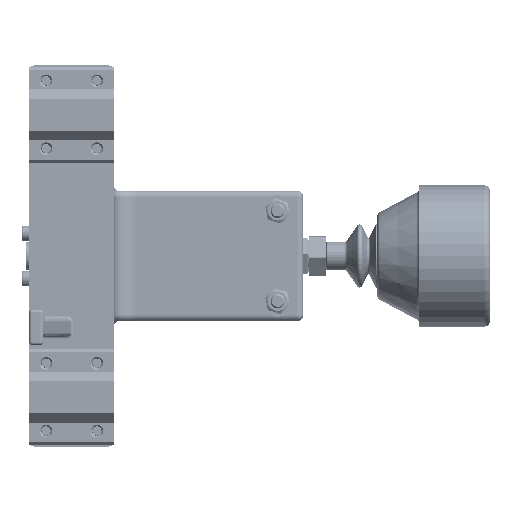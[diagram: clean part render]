
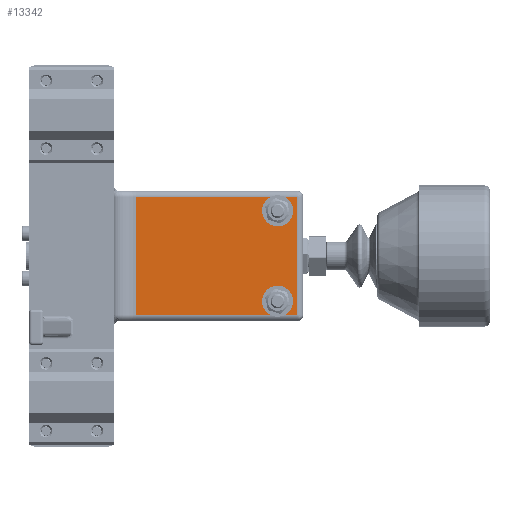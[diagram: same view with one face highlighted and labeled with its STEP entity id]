
A CAD part, left-side view. The second image highlights one B-rep face of the part: STEP entity #13342.
In plain terms, the highlighted planar face has unit normal (-1, 0, 0).
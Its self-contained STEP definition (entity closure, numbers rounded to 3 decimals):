
#478=FACE_BOUND('',#2637,.T.);
#479=FACE_BOUND('',#2638,.T.);
#640=PLANE('',#14743);
#1807=FACE_OUTER_BOUND('',#2636,.T.);
#2636=EDGE_LOOP('',(#11615,#11616,#11617,#11618));
#2637=EDGE_LOOP('',(#11619));
#2638=EDGE_LOOP('',(#11620));
#3365=CIRCLE('',#14671,2.75);
#3366=CIRCLE('',#14674,2.75);
#4055=LINE('',#66366,#4807);
#4056=LINE('',#66372,#4808);
#4058=LINE('',#66385,#4810);
#4096=LINE('',#66693,#4848);
#4807=VECTOR('',#17057,10.);
#4808=VECTOR('',#17064,10.);
#4810=VECTOR('',#17080,10.);
#4848=VECTOR('',#17292,8.);
#6051=VERTEX_POINT('',#66263);
#6077=VERTEX_POINT('',#66365);
#6079=VERTEX_POINT('',#66371);
#6082=VERTEX_POINT('',#66379);
#6135=VERTEX_POINT('',#66689);
#6136=VERTEX_POINT('',#66695);
#7859=EDGE_CURVE('',#6051,#6077,#4055,.T.);
#7862=EDGE_CURVE('',#6077,#6079,#4056,.T.);
#7869=EDGE_CURVE('',#6079,#6082,#4058,.T.);
#7968=EDGE_CURVE('',#6135,#6135,#3365,.T.);
#7969=EDGE_CURVE('',#6082,#6051,#4096,.T.);
#7971=EDGE_CURVE('',#6136,#6136,#3366,.T.);
#11615=ORIENTED_EDGE('',*,*,#7859,.F.);
#11616=ORIENTED_EDGE('',*,*,#7969,.F.);
#11617=ORIENTED_EDGE('',*,*,#7869,.F.);
#11618=ORIENTED_EDGE('',*,*,#7862,.F.);
#11619=ORIENTED_EDGE('',*,*,#7968,.T.);
#11620=ORIENTED_EDGE('',*,*,#7971,.T.);
#13342=ADVANCED_FACE('',(#1807,#478,#479),#640,.F.);
#14671=AXIS2_PLACEMENT_3D('',#66691,#17288,#17289);
#14674=AXIS2_PLACEMENT_3D('',#66697,#17296,#17297);
#14743=AXIS2_PLACEMENT_3D('',#66822,#17460,#17461);
#17057=DIRECTION('',(0.,-1.,0.));
#17064=DIRECTION('',(0.,0.,-1.));
#17080=DIRECTION('',(0.,1.,0.));
#17288=DIRECTION('center_axis',(1.,0.,0.));
#17289=DIRECTION('ref_axis',(0.,0.,-1.));
#17292=DIRECTION('',(0.,0.,1.));
#17296=DIRECTION('center_axis',(1.,0.,0.));
#17297=DIRECTION('ref_axis',(0.,0.,-1.));
#17460=DIRECTION('center_axis',(1.,0.,0.));
#17461=DIRECTION('ref_axis',(0.,0.,-1.));
#66263=CARTESIAN_POINT('',(7.,-22.937,21.));
#66365=CARTESIAN_POINT('',(7.,-80.,21.));
#66366=CARTESIAN_POINT('',(7.,-20.5,21.));
#66371=CARTESIAN_POINT('',(7.,-80.,-21.));
#66372=CARTESIAN_POINT('',(7.,-80.,10.5));
#66379=CARTESIAN_POINT('',(7.,-22.937,-21.));
#66385=CARTESIAN_POINT('',(7.,-60.5,-21.));
#66689=CARTESIAN_POINT('',(7.,-73.,-13.25));
#66691=CARTESIAN_POINT('Origin',(7.,-73.,-16.));
#66693=CARTESIAN_POINT('',(7.,-22.937,65.5));
#66695=CARTESIAN_POINT('',(7.,-73.,18.75));
#66697=CARTESIAN_POINT('Origin',(7.,-73.,16.));
#66822=CARTESIAN_POINT('Origin',(7.,-41.,0.));
